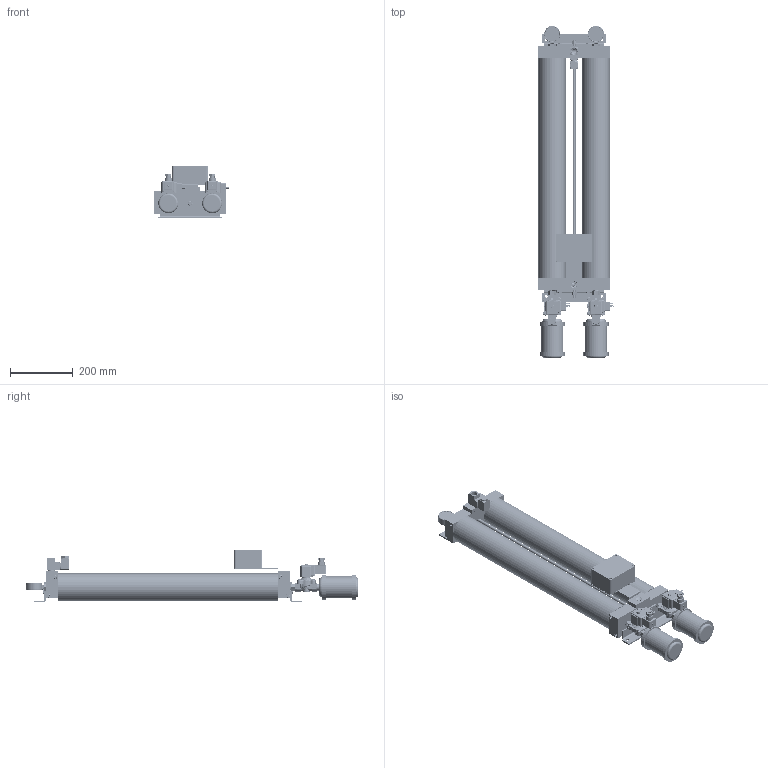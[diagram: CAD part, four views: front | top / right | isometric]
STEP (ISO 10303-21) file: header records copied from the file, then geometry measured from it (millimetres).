
FILE_DESCRIPTION (( 'STEP AP214' ), '1' );
FILE_NAME ('HR6-XX-XXXX.STEP', '2020-09-14T21:46:25', ( '' ), ( '' ), 'SwSTEP 2.0', 'SolidWorks 2017', '' );
FILE_SCHEMA (( 'AUTOMOTIVE_DESIGN' ));
Length unit declared in the file: inch
Products named in the file (1): HR6-XX-XXXX
Bounding box: 240.54 x 1059.42 x 168.38 mm (x, y, z)
Volume: 4939478.1 mm3; surface area: 1611248.5 mm2
Topology: 67 solids, 67 shells, 6992 faces, 17552 edges, 10999 vertices
Faces by surface type: cylinder 2636, plane 2368, cone 1553, bspline 237, torus 172, sphere 26
Entity records: 366816 total; most frequent: CARTESIAN_POINT 113231, ORIENTED_EDGE 34974, DIRECTION 32687, EDGE_CURVE 17487, AXIS2_PLACEMENT_3D 11911, VERTEX_POINT 10996, VECTOR 8865, LINE 8865
